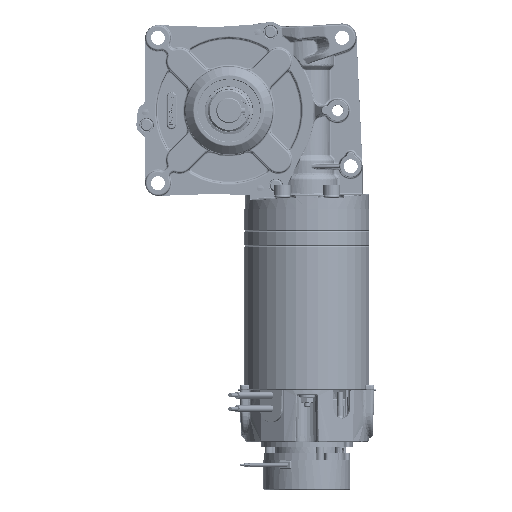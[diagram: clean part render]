
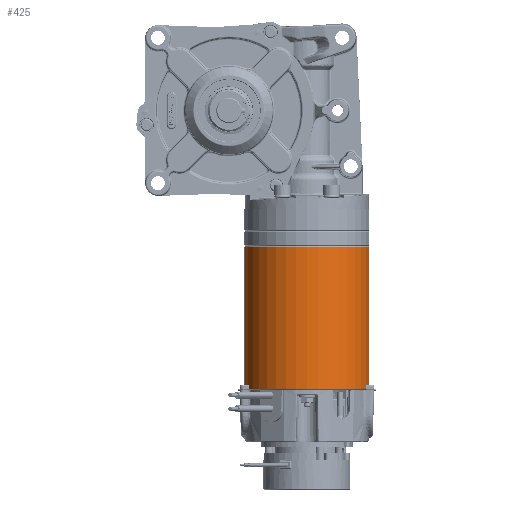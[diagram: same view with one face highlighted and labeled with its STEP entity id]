
A CAD part, left-side view. The second image highlights one B-rep face of the part: STEP entity #425.
In plain terms, the highlighted cylindrical face has radius 37 mm (diameter 74 mm), a partial arc.
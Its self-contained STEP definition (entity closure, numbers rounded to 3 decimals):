
#425 = ADVANCED_FACE ( 'NONE', ( #252995 ), #69780, .T. ) ;
#1962 = DIRECTION ( 'NONE',  ( 0., 0., -1. ) ) ;
#12510 = DIRECTION ( 'NONE',  ( 0., 0., 1. ) ) ;
#13739 = DIRECTION ( 'NONE',  ( 0.176, -0.984, 0. ) ) ;
#23945 = CARTESIAN_POINT ( 'NONE',  ( -120.277, -96.704, 19.184 ) ) ;
#33987 = CARTESIAN_POINT ( 'NONE',  ( -133.333, -23.865, -64.816 ) ) ;
#34473 = VERTEX_POINT ( 'NONE', #33987 ) ;
#40491 = VERTEX_POINT ( 'NONE', #23945 ) ;
#42912 = EDGE_CURVE ( 'NONE', #34473, #193376, #218655, .T. ) ;
#55346 = LINE ( 'NONE', #113031, #184064 ) ;
#67279 = CARTESIAN_POINT ( 'NONE',  ( -120.277, -96.704, 19.684 ) ) ;
#69780 = CYLINDRICAL_SURFACE ( 'NONE', #205772, 37. ) ;
#70887 = CIRCLE ( 'NONE', #258729, 37. ) ;
#73735 = EDGE_CURVE ( 'NONE', #40491, #193376, #130138, .T. ) ;
#75099 = CARTESIAN_POINT ( 'NONE',  ( -126.805, -60.285, -64.816 ) ) ;
#86285 = AXIS2_PLACEMENT_3D ( 'NONE', #75099, #12510, #215722 ) ;
#92999 = CARTESIAN_POINT ( 'NONE',  ( -120.277, -96.704, -64.816 ) ) ;
#93881 = ORIENTED_EDGE ( 'NONE', *, *, #73735, .F. ) ;
#93975 = EDGE_CURVE ( 'NONE', #40491, #109998, #70887, .T. ) ;
#109998 = VERTEX_POINT ( 'NONE', #123775 ) ;
#113031 = CARTESIAN_POINT ( 'NONE',  ( -133.333, -23.865, 19.684 ) ) ;
#119464 = DIRECTION ( 'NONE',  ( 0.176, -0.984, 0. ) ) ;
#123775 = CARTESIAN_POINT ( 'NONE',  ( -133.333, -23.865, 19.184 ) ) ;
#130138 = LINE ( 'NONE', #67279, #138671 ) ;
#136959 = DIRECTION ( 'NONE',  ( 0., 0., -1. ) ) ;
#138671 = VECTOR ( 'NONE', #210455, 1000. ) ;
#175835 = EDGE_LOOP ( 'NONE', ( #217987, #258476, #199806, #93881 ) ) ;
#176718 = DIRECTION ( 'NONE',  ( 0., 0., -1. ) ) ;
#184064 = VECTOR ( 'NONE', #136959, 1000. ) ;
#184930 = CARTESIAN_POINT ( 'NONE',  ( -126.805, -60.285, 19.184 ) ) ;
#193376 = VERTEX_POINT ( 'NONE', #92999 ) ;
#199806 = ORIENTED_EDGE ( 'NONE', *, *, #42912, .T. ) ;
#205772 = AXIS2_PLACEMENT_3D ( 'NONE', #242183, #176718, #13739 ) ;
#210455 = DIRECTION ( 'NONE',  ( 0., 0., -1. ) ) ;
#215722 = DIRECTION ( 'NONE',  ( 0.176, -0.984, 0. ) ) ;
#217987 = ORIENTED_EDGE ( 'NONE', *, *, #93975, .T. ) ;
#218655 = CIRCLE ( 'NONE', #86285, 37. ) ;
#242183 = CARTESIAN_POINT ( 'NONE',  ( -126.805, -60.285, 19.684 ) ) ;
#248324 = EDGE_CURVE ( 'NONE', #109998, #34473, #55346, .T. ) ;
#252995 = FACE_OUTER_BOUND ( 'NONE', #175835, .T. ) ;
#258476 = ORIENTED_EDGE ( 'NONE', *, *, #248324, .T. ) ;
#258729 = AXIS2_PLACEMENT_3D ( 'NONE', #184930, #1962, #119464 ) ;
